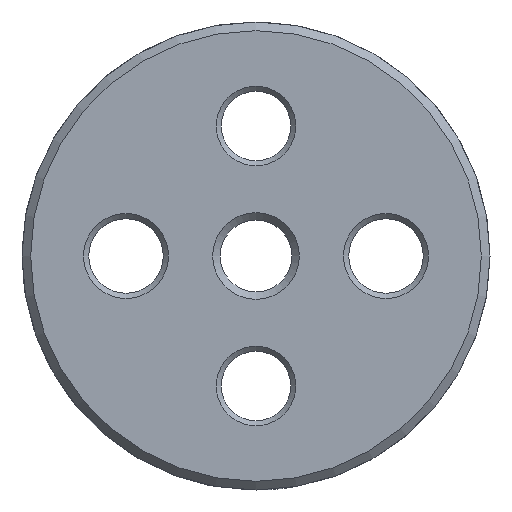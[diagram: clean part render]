
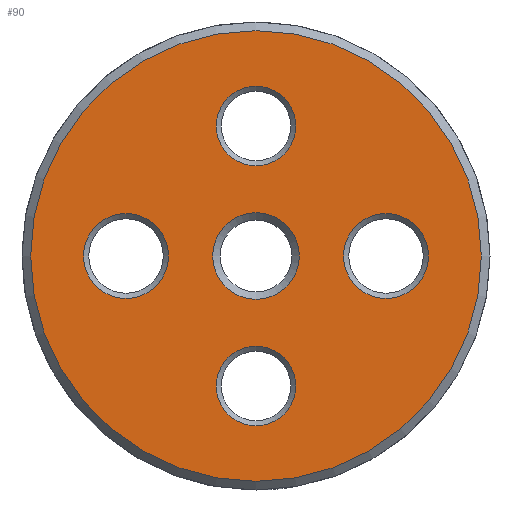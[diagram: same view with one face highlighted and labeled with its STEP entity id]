
A CAD part, front view. The second image highlights one B-rep face of the part: STEP entity #90.
In plain terms, the highlighted planar face has unit normal (0, -1, 0).
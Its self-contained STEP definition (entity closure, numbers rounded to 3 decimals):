
#90 = ADVANCED_FACE( '', ( #151, #152, #153, #154, #155, #156 ), #157, .F. );
#151 = FACE_BOUND( '', #250, .T. );
#152 = FACE_BOUND( '', #251, .T. );
#153 = FACE_BOUND( '', #252, .T. );
#154 = FACE_BOUND( '', #253, .T. );
#155 = FACE_BOUND( '', #254, .T. );
#156 = FACE_OUTER_BOUND( '', #255, .T. );
#157 = PLANE( '', #256 );
#250 = EDGE_LOOP( '', ( #424 ) );
#251 = EDGE_LOOP( '', ( #425 ) );
#252 = EDGE_LOOP( '', ( #426 ) );
#253 = EDGE_LOOP( '', ( #427 ) );
#254 = EDGE_LOOP( '', ( #428 ) );
#255 = EDGE_LOOP( '', ( #429 ) );
#256 = AXIS2_PLACEMENT_3D( '', #430, #431, #432 );
#424 = ORIENTED_EDGE( '', *, *, #611, .F. );
#425 = ORIENTED_EDGE( '', *, *, #603, .F. );
#426 = ORIENTED_EDGE( '', *, *, #615, .F. );
#427 = ORIENTED_EDGE( '', *, *, #616, .F. );
#428 = ORIENTED_EDGE( '', *, *, #617, .F. );
#429 = ORIENTED_EDGE( '', *, *, #618, .T. );
#430 = CARTESIAN_POINT( '', ( 13., 0., 0. ) );
#431 = DIRECTION( '', ( 0., 1., 0. ) );
#432 = DIRECTION( '', ( 0., 0., 1. ) );
#603 = EDGE_CURVE( '', #707, #707, #708, .F. );
#611 = EDGE_CURVE( '', #721, #721, #722, .T. );
#615 = EDGE_CURVE( '', #729, #729, #730, .T. );
#616 = EDGE_CURVE( '', #731, #731, #732, .T. );
#617 = EDGE_CURVE( '', #733, #733, #734, .T. );
#618 = EDGE_CURVE( '', #735, #735, #736, .T. );
#707 = VERTEX_POINT( '', #948 );
#708 = CIRCLE( '', #949, 2.45 );
#721 = VERTEX_POINT( '', #966 );
#722 = CIRCLE( '', #967, 2.5 );
#729 = VERTEX_POINT( '', #974 );
#730 = CIRCLE( '', #975, 2.3 );
#731 = VERTEX_POINT( '', #976 );
#732 = CIRCLE( '', #977, 2.3 );
#733 = VERTEX_POINT( '', #978 );
#734 = CIRCLE( '', #979, 2.45 );
#735 = VERTEX_POINT( '', #980 );
#736 = CIRCLE( '', #981, 13. );
#948 = CARTESIAN_POINT( '', ( 7.5, 0., 2.45 ) );
#949 = AXIS2_PLACEMENT_3D( '', #1095, #1096, #1097 );
#966 = CARTESIAN_POINT( '', ( 0., 0., -2.5 ) );
#967 = AXIS2_PLACEMENT_3D( '', #1114, #1115, #1116 );
#974 = CARTESIAN_POINT( '', ( 0., 0., 5.2 ) );
#975 = AXIS2_PLACEMENT_3D( '', #1126, #1127, #1128 );
#976 = CARTESIAN_POINT( '', ( 0., 0., -9.8 ) );
#977 = AXIS2_PLACEMENT_3D( '', #1129, #1130, #1131 );
#978 = CARTESIAN_POINT( '', ( -7.5, 0., -2.45 ) );
#979 = AXIS2_PLACEMENT_3D( '', #1132, #1133, #1134 );
#980 = CARTESIAN_POINT( '', ( 0., 0., -13. ) );
#981 = AXIS2_PLACEMENT_3D( '', #1135, #1136, #1137 );
#1095 = CARTESIAN_POINT( '', ( 7.5, 0., 0. ) );
#1096 = DIRECTION( '', ( 0., 1., 0. ) );
#1097 = DIRECTION( '', ( 0., 0., 1. ) );
#1114 = CARTESIAN_POINT( '', ( 0., 0., 0. ) );
#1115 = DIRECTION( '', ( 0., -1., 0. ) );
#1116 = DIRECTION( '', ( 0., 0., -1. ) );
#1126 = CARTESIAN_POINT( '', ( 0., 0., 7.5 ) );
#1127 = DIRECTION( '', ( 0., -1., 0. ) );
#1128 = DIRECTION( '', ( 0., 0., -1. ) );
#1129 = CARTESIAN_POINT( '', ( 0., 0., -7.5 ) );
#1130 = DIRECTION( '', ( 0., -1., 0. ) );
#1131 = DIRECTION( '', ( 0., 0., -1. ) );
#1132 = CARTESIAN_POINT( '', ( -7.5, 0., 0. ) );
#1133 = DIRECTION( '', ( 0., -1., 0. ) );
#1134 = DIRECTION( '', ( 0., 0., -1. ) );
#1135 = CARTESIAN_POINT( '', ( 0., 0., 0. ) );
#1136 = DIRECTION( '', ( 0., -1., 0. ) );
#1137 = DIRECTION( '', ( 0., 0., -1. ) );
